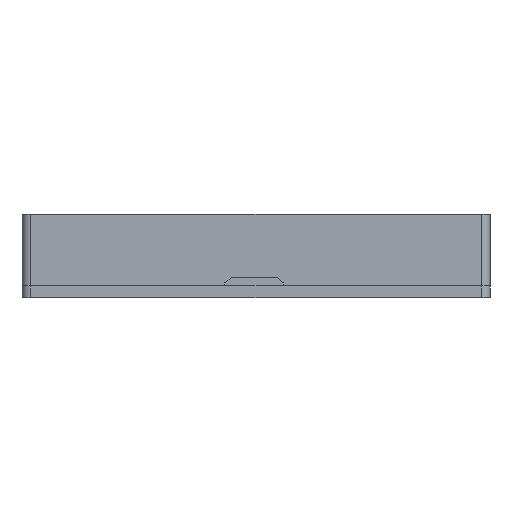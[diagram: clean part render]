
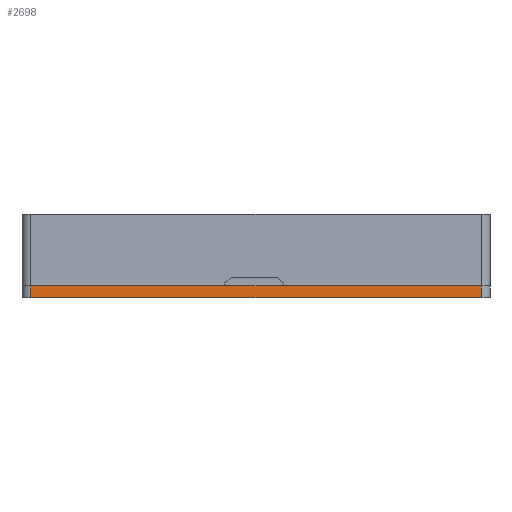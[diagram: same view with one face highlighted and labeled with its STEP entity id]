
A CAD part, front view. The second image highlights one B-rep face of the part: STEP entity #2698.
In plain terms, the highlighted planar face has unit normal (0, -1, 0).
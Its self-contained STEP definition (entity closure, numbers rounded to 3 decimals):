
#66 = PLANE('',#67);
#67 = AXIS2_PLACEMENT_3D('',#68,#69,#70);
#68 = CARTESIAN_POINT('',(-1.5,3.15,1.6));
#69 = DIRECTION('',(0.,0.,1.));
#70 = DIRECTION('',(-1.,-0.,0.));
#122 = PLANE('',#123);
#123 = AXIS2_PLACEMENT_3D('',#124,#125,#126);
#124 = CARTESIAN_POINT('',(-1.5,3.15,0.));
#125 = DIRECTION('',(0.,0.,1.));
#126 = DIRECTION('',(-1.,-0.,0.));
#150 = CYLINDRICAL_SURFACE('',#151,1.2);
#151 = AXIS2_PLACEMENT_3D('',#152,#153,#154);
#152 = CARTESIAN_POINT('',(-0.3,-21.95,0.));
#153 = DIRECTION('',(-0.,-0.,1.));
#154 = DIRECTION('',(-1.,-0.,0.));
#782 = VERTEX_POINT('',#783);
#783 = CARTESIAN_POINT('',(60.75,-23.15,1.6));
#802 = CYLINDRICAL_SURFACE('',#803,1.2);
#803 = AXIS2_PLACEMENT_3D('',#804,#805,#806);
#804 = CARTESIAN_POINT('',(60.75,-21.95,0.));
#805 = DIRECTION('',(-0.,-0.,1.));
#806 = DIRECTION('',(1.,-0.,-0.));
#814 = EDGE_CURVE('',#815,#782,#817,.T.);
#815 = VERTEX_POINT('',#816);
#816 = CARTESIAN_POINT('',(-0.3,-23.15,1.6));
#817 = SURFACE_CURVE('',#818,(#822,#829),.PCURVE_S1.);
#818 = LINE('',#819,#820);
#819 = CARTESIAN_POINT('',(-1.5,-23.15,1.6));
#820 = VECTOR('',#821,1.);
#821 = DIRECTION('',(1.,0.,0.));
#822 = PCURVE('',#66,#823);
#823 = DEFINITIONAL_REPRESENTATION('',(#824),#828);
#824 = LINE('',#825,#826);
#825 = CARTESIAN_POINT('',(-0.,26.3));
#826 = VECTOR('',#827,1.);
#827 = DIRECTION('',(-1.,-0.));
#828 = ( GEOMETRIC_REPRESENTATION_CONTEXT(2) 
PARAMETRIC_REPRESENTATION_CONTEXT() REPRESENTATION_CONTEXT('2D SPACE',''
  ) );
#829 = PCURVE('',#830,#835);
#830 = PLANE('',#831);
#831 = AXIS2_PLACEMENT_3D('',#832,#833,#834);
#832 = CARTESIAN_POINT('',(-1.5,-23.15,0.));
#833 = DIRECTION('',(0.,-1.,0.));
#834 = DIRECTION('',(0.,-0.,-1.));
#835 = DEFINITIONAL_REPRESENTATION('',(#836),#840);
#836 = LINE('',#837,#838);
#837 = CARTESIAN_POINT('',(-1.6,0.));
#838 = VECTOR('',#839,1.);
#839 = DIRECTION('',(-0.,1.));
#840 = ( GEOMETRIC_REPRESENTATION_CONTEXT(2) 
PARAMETRIC_REPRESENTATION_CONTEXT() REPRESENTATION_CONTEXT('2D SPACE',''
  ) );
#2083 = VERTEX_POINT('',#2084);
#2084 = CARTESIAN_POINT('',(-0.3,-23.15,0.));
#2106 = EDGE_CURVE('',#2083,#815,#2107,.T.);
#2107 = SURFACE_CURVE('',#2108,(#2112,#2119),.PCURVE_S1.);
#2108 = LINE('',#2109,#2110);
#2109 = CARTESIAN_POINT('',(-0.3,-23.15,0.));
#2110 = VECTOR('',#2111,1.);
#2111 = DIRECTION('',(-0.,-0.,1.));
#2112 = PCURVE('',#150,#2113);
#2113 = DEFINITIONAL_REPRESENTATION('',(#2114),#2118);
#2114 = LINE('',#2115,#2116);
#2115 = CARTESIAN_POINT('',(1.571,0.));
#2116 = VECTOR('',#2117,1.);
#2117 = DIRECTION('',(0.,1.));
#2118 = ( GEOMETRIC_REPRESENTATION_CONTEXT(2) 
PARAMETRIC_REPRESENTATION_CONTEXT() REPRESENTATION_CONTEXT('2D SPACE',''
  ) );
#2119 = PCURVE('',#830,#2120);
#2120 = DEFINITIONAL_REPRESENTATION('',(#2121),#2125);
#2121 = LINE('',#2122,#2123);
#2122 = CARTESIAN_POINT('',(-0.,1.2));
#2123 = VECTOR('',#2124,1.);
#2124 = DIRECTION('',(-1.,0.));
#2125 = ( GEOMETRIC_REPRESENTATION_CONTEXT(2) 
PARAMETRIC_REPRESENTATION_CONTEXT() REPRESENTATION_CONTEXT('2D SPACE',''
  ) );
#2232 = VERTEX_POINT('',#2233);
#2233 = CARTESIAN_POINT('',(60.75,-23.15,0.));
#2259 = EDGE_CURVE('',#2083,#2232,#2260,.T.);
#2260 = SURFACE_CURVE('',#2261,(#2265,#2272),.PCURVE_S1.);
#2261 = LINE('',#2262,#2263);
#2262 = CARTESIAN_POINT('',(-1.5,-23.15,0.));
#2263 = VECTOR('',#2264,1.);
#2264 = DIRECTION('',(1.,0.,0.));
#2265 = PCURVE('',#122,#2266);
#2266 = DEFINITIONAL_REPRESENTATION('',(#2267),#2271);
#2267 = LINE('',#2268,#2269);
#2268 = CARTESIAN_POINT('',(-0.,26.3));
#2269 = VECTOR('',#2270,1.);
#2270 = DIRECTION('',(-1.,-0.));
#2271 = ( GEOMETRIC_REPRESENTATION_CONTEXT(2) 
PARAMETRIC_REPRESENTATION_CONTEXT() REPRESENTATION_CONTEXT('2D SPACE',''
  ) );
#2272 = PCURVE('',#830,#2273);
#2273 = DEFINITIONAL_REPRESENTATION('',(#2274),#2278);
#2274 = LINE('',#2275,#2276);
#2275 = CARTESIAN_POINT('',(-0.,0.));
#2276 = VECTOR('',#2277,1.);
#2277 = DIRECTION('',(-0.,1.));
#2278 = ( GEOMETRIC_REPRESENTATION_CONTEXT(2) 
PARAMETRIC_REPRESENTATION_CONTEXT() REPRESENTATION_CONTEXT('2D SPACE',''
  ) );
#2698 = ADVANCED_FACE('',(#2699),#830,.T.);
#2699 = FACE_BOUND('',#2700,.F.);
#2700 = EDGE_LOOP('',(#2701,#2702,#2703,#2704));
#2701 = ORIENTED_EDGE('',*,*,#2259,.F.);
#2702 = ORIENTED_EDGE('',*,*,#2106,.T.);
#2703 = ORIENTED_EDGE('',*,*,#814,.T.);
#2704 = ORIENTED_EDGE('',*,*,#2705,.F.);
#2705 = EDGE_CURVE('',#2232,#782,#2706,.T.);
#2706 = SURFACE_CURVE('',#2707,(#2711,#2718),.PCURVE_S1.);
#2707 = LINE('',#2708,#2709);
#2708 = CARTESIAN_POINT('',(60.75,-23.15,0.));
#2709 = VECTOR('',#2710,1.);
#2710 = DIRECTION('',(-0.,-0.,1.));
#2711 = PCURVE('',#830,#2712);
#2712 = DEFINITIONAL_REPRESENTATION('',(#2713),#2717);
#2713 = LINE('',#2714,#2715);
#2714 = CARTESIAN_POINT('',(-0.,62.25));
#2715 = VECTOR('',#2716,1.);
#2716 = DIRECTION('',(-1.,0.));
#2717 = ( GEOMETRIC_REPRESENTATION_CONTEXT(2) 
PARAMETRIC_REPRESENTATION_CONTEXT() REPRESENTATION_CONTEXT('2D SPACE',''
  ) );
#2718 = PCURVE('',#802,#2719);
#2719 = DEFINITIONAL_REPRESENTATION('',(#2720),#2724);
#2720 = LINE('',#2721,#2722);
#2721 = CARTESIAN_POINT('',(-1.571,0.));
#2722 = VECTOR('',#2723,1.);
#2723 = DIRECTION('',(-0.,1.));
#2724 = ( GEOMETRIC_REPRESENTATION_CONTEXT(2) 
PARAMETRIC_REPRESENTATION_CONTEXT() REPRESENTATION_CONTEXT('2D SPACE',''
  ) );
